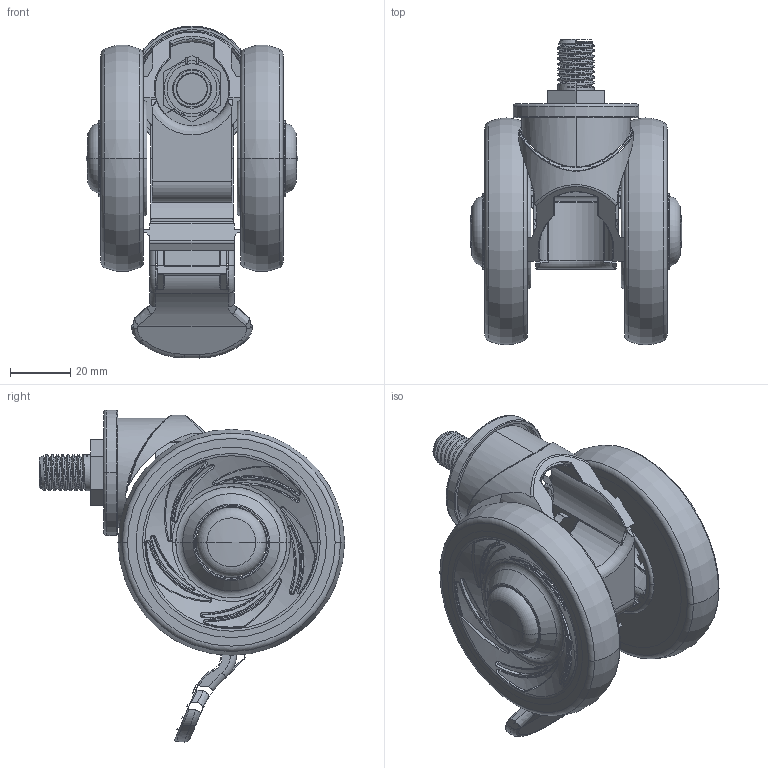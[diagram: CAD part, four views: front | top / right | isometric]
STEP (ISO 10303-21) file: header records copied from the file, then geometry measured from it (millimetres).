
FILE_DESCRIPTION((''),'2;1');
FILE_NAME('PRT0003','2025-06-19T15:28:10',('Administrator'),(''),'CREO PARAMETRIC BY PTC INC, 2022124','CREO PARAMETRIC BY PTC INC, 2022124','');
FILE_SCHEMA(('AP203_CONFIGURATION_CONTROLLED_3D_DESIGN_OF_MECHANICAL_PARTS_AND_ASSEMBLIES_MIM_LF { 1 0 10303 403 2 1 2 }'));
Length unit declared in the file: millimetre
Products named in the file (1): PRT0003
Bounding box: 69.99 x 101 x 109.77 mm (x, y, z)
Surface area: 34775.3 mm2 (no closed solid volume)
Topology: 0 solids, 55 shells, 280 faces, 1580 edges, 1331 vertices
Faces by surface type: bspline 80, cylinder 71, plane 59, torus 55, cone 11, sphere 4
Entity records: 28548 total; most frequent: CARTESIAN_POINT 16076, ORIENTED_EDGE 1971, DIRECTION 1745, EDGE_CURVE 1576, VERTEX_POINT 1331, B_SPLINE_CURVE_WITH_KNOTS 728, AXIS2_PLACEMENT_3D 684, CIRCLE 474
